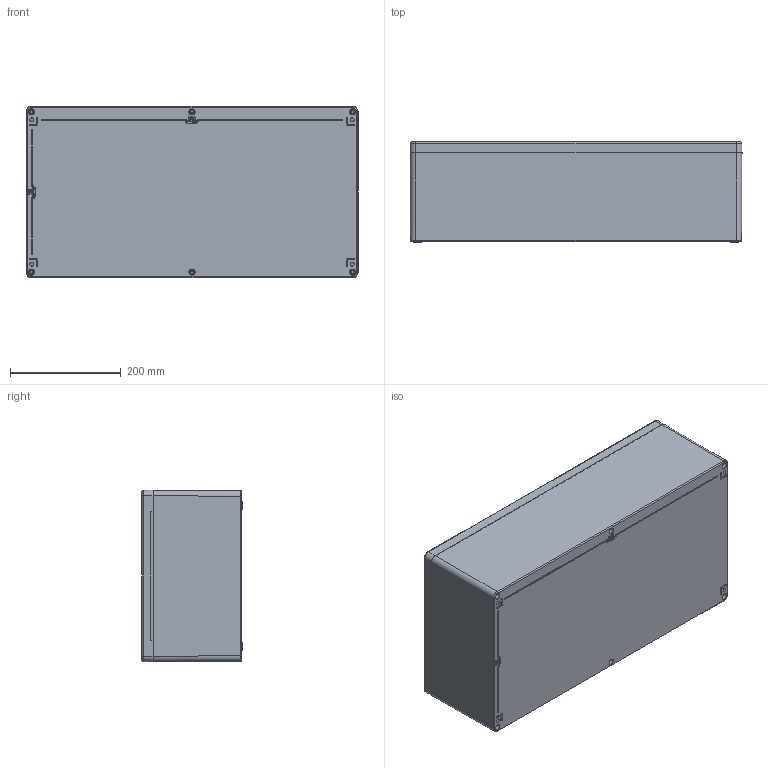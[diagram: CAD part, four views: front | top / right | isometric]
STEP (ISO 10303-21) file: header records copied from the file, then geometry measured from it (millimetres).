
FILE_DESCRIPTION((''),'2;1');
FILE_NAME('1480000000_ASM','2022-09-16T12:26:49',('silke.otte'),(''),'CREO PARAMETRIC BY PTC INC, 2018300','CREO PARAMETRIC BY PTC INC, 2018300','');
FILE_SCHEMA(('AUTOMOTIVE_DESIGN { 1 0 10303 214 1 1 1 1 }'));
Products named in the file (11): 9301026000_AF0; 9261018000; 9601392000_ASM; 9601579000_ASM; 9302025000_AF0; 9261116000; 9611154000_ASM; 9611335000_DICHTUNG; 9611335000_ASM; 9261021000; 1480000000_ASM
Assembly tree (18 placements, depth 4):
  1480000000_ASM
    9601579000_ASM
      9601392000_ASM
        9301026000_AF0
        9261018000  x4
    9611335000_ASM
      9611154000_ASM
        9302025000_AF0
        9261116000
      9611335000_DICHTUNG
    9261021000  x6
Bounding box: 600.7 x 181 x 310.7 mm (x, y, z)
Volume: 3733978.2 mm3; surface area: 1485387 mm2
Topology: 19 solids, 43 shells, 2319 faces, 6054 edges, 3874 vertices
Faces by surface type: plane 1341, cylinder 494, cone 300, bspline 126, torus 58
Entity records: 89160 total; most frequent: CARTESIAN_POINT 26382, ORIENTED_EDGE 9308, DIRECTION 8873, PRESENTATION_STYLE_ASSIGNMENT 4715, STYLED_ITEM 4710, CURVE_STYLE 4689, EDGE_CURVE 4686, VECTOR 3238
